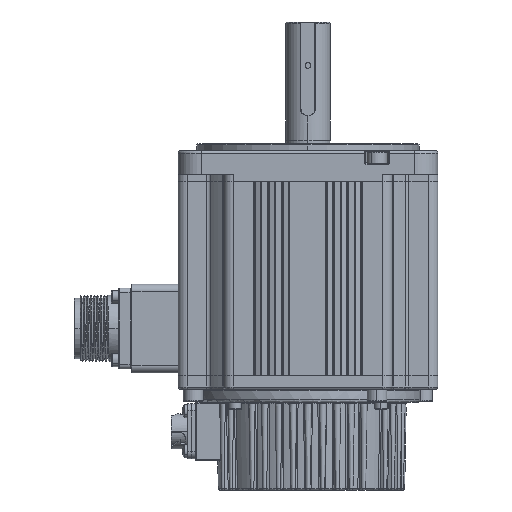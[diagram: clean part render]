
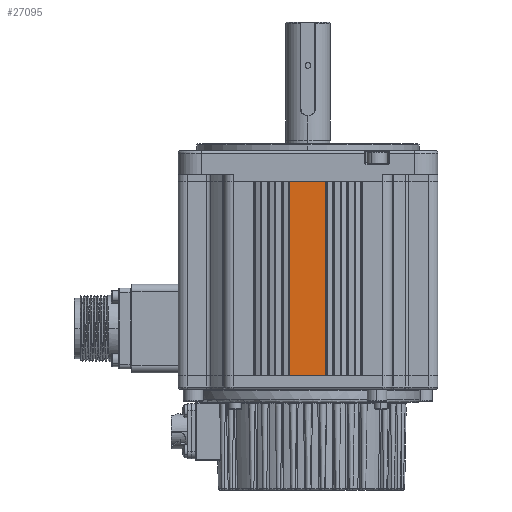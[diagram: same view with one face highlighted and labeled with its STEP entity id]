
A CAD part, left-side view. The second image highlights one B-rep face of the part: STEP entity #27095.
In plain terms, the highlighted planar face has unit normal (-1, 0, 0) as drawn and (0, -1, 0) by its records, which use the part's own axes.
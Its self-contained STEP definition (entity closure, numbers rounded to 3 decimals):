
#1372 = CARTESIAN_POINT ( 'NONE',  ( -7.7, -55.5, 83. ) ) ;
#6387 = EDGE_CURVE ( 'NONE', #33518, #12556, #12096, .T. ) ;
#9545 = ORIENTED_EDGE ( 'NONE', *, *, #22199, .T. ) ;
#10979 = PLANE ( 'NONE',  #21478 ) ;
#12096 = LINE ( 'NONE', #56670, #55284 ) ;
#12556 = VERTEX_POINT ( 'NONE', #46065 ) ;
#12931 = DIRECTION ( 'NONE',  ( 0., 0., -1. ) ) ;
#13626 = LINE ( 'NONE', #64282, #40609 ) ;
#18269 = CARTESIAN_POINT ( 'NONE',  ( -8., -55.5, 83. ) ) ;
#21478 = AXIS2_PLACEMENT_3D ( 'NONE', #59157, #79940, #66098 ) ;
#22199 = EDGE_CURVE ( 'NONE', #36538, #33518, #45263, .T. ) ;
#23665 = EDGE_CURVE ( 'NONE', #12556, #80098, #13626, .T. ) ;
#27095 = ADVANCED_FACE ( 'NONE', ( #64869 ), #10979, .F. ) ;
#33518 = VERTEX_POINT ( 'NONE', #81704 ) ;
#35448 = VECTOR ( 'NONE', #66495, 1000. ) ;
#36538 = VERTEX_POINT ( 'NONE', #1372 ) ;
#40609 = VECTOR ( 'NONE', #70904, 1000. ) ;
#45263 = LINE ( 'NONE', #81322, #67894 ) ;
#46065 = CARTESIAN_POINT ( 'NONE',  ( 7.7, -55.5, 0. ) ) ;
#50968 = ORIENTED_EDGE ( 'NONE', *, *, #23665, .T. ) ;
#53795 = LINE ( 'NONE', #18269, #35448 ) ;
#53988 = CARTESIAN_POINT ( 'NONE',  ( 7.7, -55.5, 83. ) ) ;
#55284 = VECTOR ( 'NONE', #77446, 1000. ) ;
#56670 = CARTESIAN_POINT ( 'NONE',  ( -8., -55.5, 0. ) ) ;
#59157 = CARTESIAN_POINT ( 'NONE',  ( -8., -55.5, 83. ) ) ;
#64282 = CARTESIAN_POINT ( 'NONE',  ( 7.7, -55.5, 83. ) ) ;
#64869 = FACE_OUTER_BOUND ( 'NONE', #67312, .T. ) ;
#66098 = DIRECTION ( 'NONE',  ( 0., 0., 1. ) ) ;
#66495 = DIRECTION ( 'NONE',  ( 1., 0., 0. ) ) ;
#67312 = EDGE_LOOP ( 'NONE', ( #69729, #9545, #76968, #50968 ) ) ;
#67894 = VECTOR ( 'NONE', #12931, 1000. ) ;
#69729 = ORIENTED_EDGE ( 'NONE', *, *, #82836, .F. ) ;
#70904 = DIRECTION ( 'NONE',  ( 0., 0., 1. ) ) ;
#76968 = ORIENTED_EDGE ( 'NONE', *, *, #6387, .T. ) ;
#77446 = DIRECTION ( 'NONE',  ( 1., 0., 0. ) ) ;
#79940 = DIRECTION ( 'NONE',  ( 0., 1., 0. ) ) ;
#80098 = VERTEX_POINT ( 'NONE', #53988 ) ;
#81322 = CARTESIAN_POINT ( 'NONE',  ( -7.7, -55.5, 83. ) ) ;
#81704 = CARTESIAN_POINT ( 'NONE',  ( -7.7, -55.5, 0. ) ) ;
#82836 = EDGE_CURVE ( 'NONE', #36538, #80098, #53795, .T. ) ;
